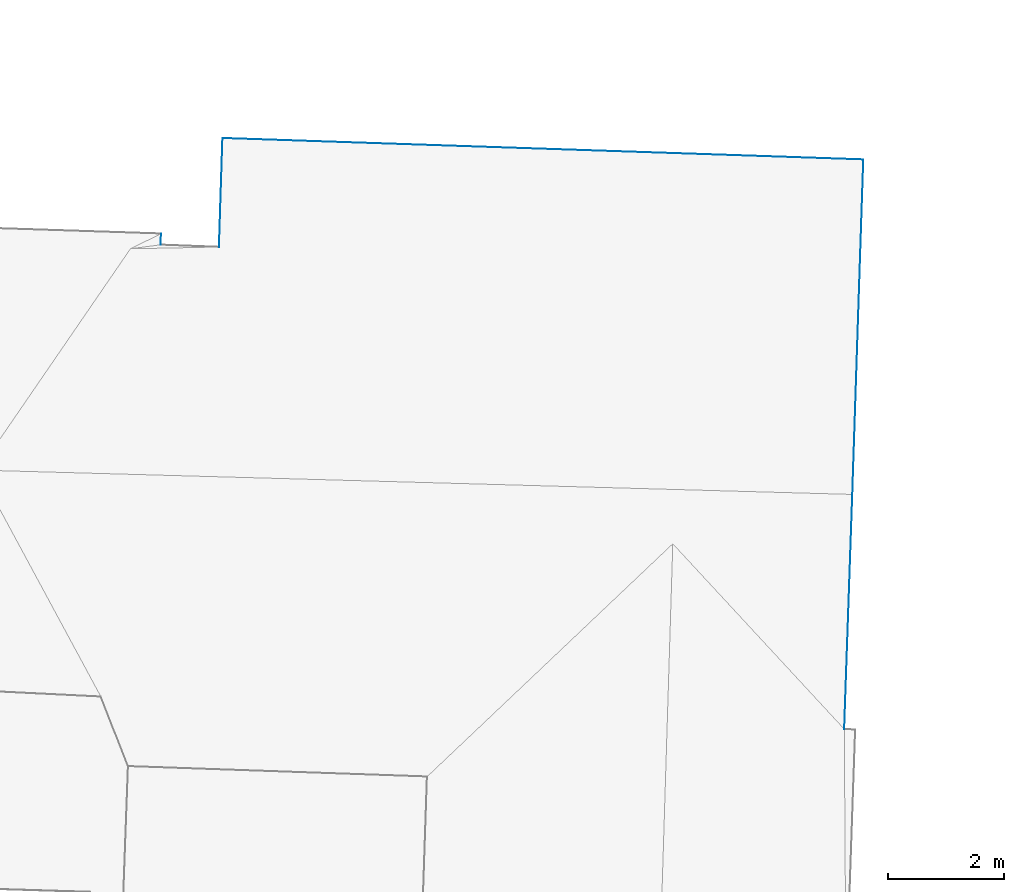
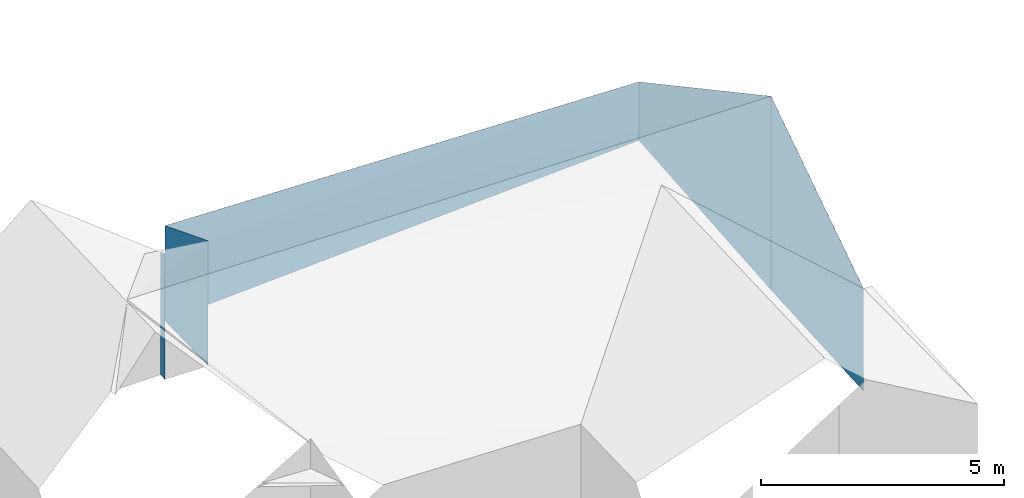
# Not in any storey, part 14 of 59: 5 walls.
"""IFC4 building model written with IfcOpenShell, lengths in metres."""

from ifc_helpers import new_model, entity, si_unit, converted_unit, origin, place, context, subcontext, project, spatial, face_set, surface_model, element, save


model = new_model("IFC4")

# Units and contexts
model_context = context("Model", 3, precision=1e-05, world=origin())
body_context = subcontext(model_context, "Body", "Model", "MODEL_VIEW")
ifc_project = project(units=[converted_unit("PLANEANGLEUNIT", "DEGREE", entity("IfcRatioMeasure", 0.0174532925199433), si_unit("PLANEANGLEUNIT", "RADIAN"), dimensions=[0, 0, 0, 0, 0, 0, 0]), si_unit("AREAUNIT", "SQUARE_METRE"), si_unit("LENGTHUNIT", "METRE")], contexts=[model_context])

# Site, building
site_placement = place(None, origin())
site = spatial("IfcSite", under=ifc_project, at=site_placement, Name="_site")
building_placement = place(site_placement, origin())
building = spatial("IfcBuilding", under=site, at=building_placement, Name="_building")

# Walls
wall_1_placement = place(building_placement, origin())
element("IfcWall", 1, at=wall_1_placement, inside=building, Name="Wall", PredefinedType="NOTDEFINED", context=body_context, shape_type="SurfaceModel", body=[
    surface_model("IfcFaceBasedSurfaceModel", [(128.17, 113.42, 216.39), (127.98, 107.641, 219.6), (127.98, 107.641, 214.723), (128.17, 113.42, 214.916)], [face_set([[[0, 1, 2, 3]]])]),
])
wall_2_placement = place(building_placement, origin())
element("IfcWall", 2, at=wall_2_placement, inside=building, Name="Wall", PredefinedType="NOTDEFINED", context=body_context, shape_type="SurfaceModel", body=[
    surface_model("IfcFaceBasedSurfaceModel", [(127.98, 107.641, 219.6), (127.84, 103.59, 217.27), (127.84, 103.59, 214.684), (127.98, 107.641, 214.723)], [face_set([[[0, 1, 2, 3]]])]),
])
wall_3_placement = place(building_placement, origin())
element("IfcWall", 3, at=wall_3_placement, inside=building, Name="Wall", PredefinedType="NOTDEFINED", context=body_context, shape_type="SurfaceModel", body=[
    surface_model("IfcFaceBasedSurfaceModel", [(116.05, 112.141, 217.13), (116.04, 111.949, 217.2), (116.04, 111.949, 214.042), (116.05, 112.141, 214.039)], [face_set([[[0, 1, 2, 3]]])]),
])
wall_4_placement = place(building_placement, origin())
element("IfcWall", 4, at=wall_4_placement, inside=building, Name="Wall", PredefinedType="NOTDEFINED", context=body_context, shape_type="SurfaceModel", body=[
    surface_model("IfcFaceBasedSurfaceModel", [(117.05, 111.91, 217.2), (117.11, 113.789, 216.42), (117.11, 113.789, 214.02), (117.05, 111.91, 214.054)], [face_set([[[0, 1, 2, 3]]])]),
])
wall_5_placement = place(building_placement, origin())
element("IfcWall", 5, at=wall_5_placement, inside=building, Name="Wall", PredefinedType="NOTDEFINED", context=body_context, shape_type="SurfaceModel", body=[
    surface_model("IfcFaceBasedSurfaceModel", [(117.11, 113.789, 216.42), (128.17, 113.42, 216.39), (128.17, 113.42, 214.916), (117.11, 113.789, 214.02)], [face_set([[[0, 1, 2, 3]]])]),
])

save(model, "model.ifc")
